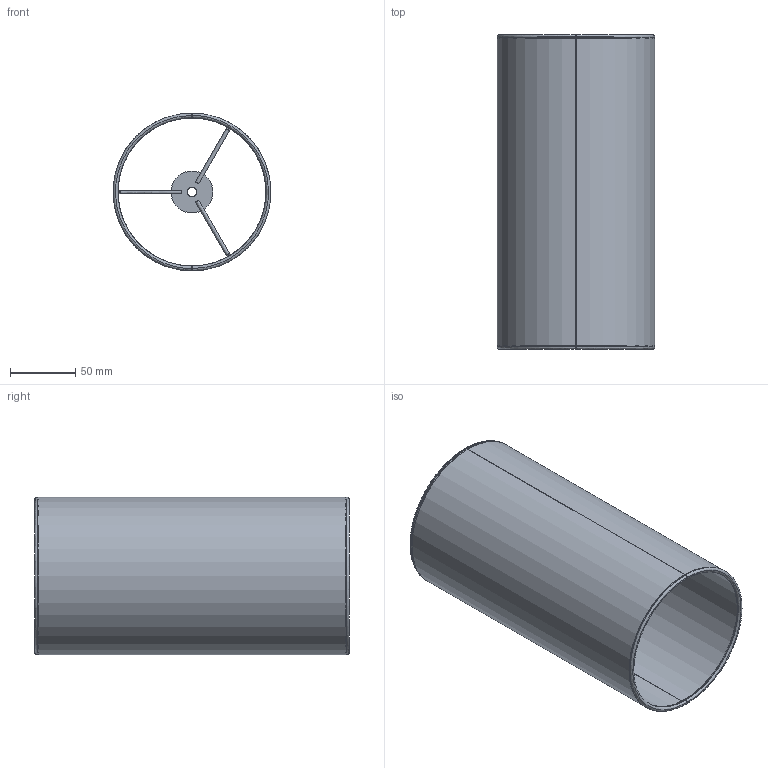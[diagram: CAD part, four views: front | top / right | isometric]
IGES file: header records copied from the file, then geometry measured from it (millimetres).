
Start section: SolidWorks IGES file using analytic representation for surfaces
Global section: file name: F:\GABRYSIA\MODELE 3D\_CAMELEON\KLOSZE I OPRAWY WWW\BARREL_THIN_S_8523_8522_8520_8521_8422_8525_8524_8526_WWW\BARREL_THIN_S_8523_8522_8520_8521_8422_8525_8524_8526.IGS; native system: SolidWorks 2017; preprocessor: SolidWorks 2017; author: Togambi; date: 200512.133316; units: millimetre
Bounding box: 120.69 x 240.73 x 120.69 mm (x, y, z)
Surface area: 199809.3 mm2 (no closed solid volume)
Topology: 0 solids, 0 shells, 55 faces, 893 edges, 893 vertices
Faces by surface type: bspline 33, revolution 22
